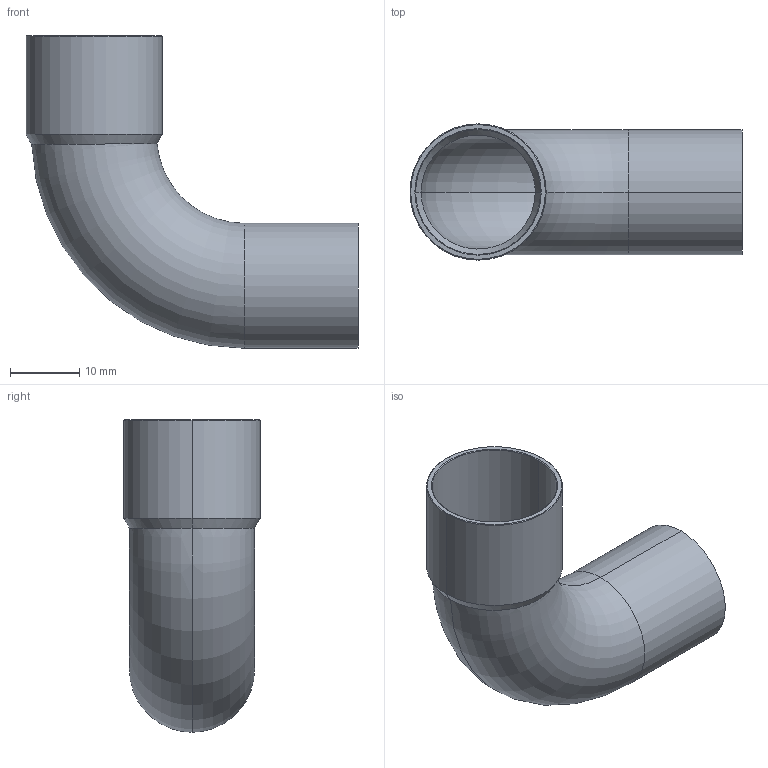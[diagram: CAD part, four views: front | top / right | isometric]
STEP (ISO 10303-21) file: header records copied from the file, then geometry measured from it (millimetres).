
FILE_DESCRIPTION((''),'2;1');
FILE_NAME('P:\Bouwmaten\z-maattekeningen 3D\5000\5001a\15001a18.stp','2005-10-04T14:35:53',('Kris'),(''),'Autodesk Inventor 8','Autodesk Inventor 8','');
FILE_SCHEMA(('AUTOMOTIVE_DESIGN { 1 0 10303 214 1 1 1 1 }'));
Length unit declared in the file: millimetre
Products named in the file (1): 15001a18
Bounding box: 47.8 x 19.6 x 45 mm (x, y, z)
Volume: 2866.7 mm3; surface area: 7251.7 mm2
Topology: 1 solids, 1 shells, 22 faces, 46 edges, 26 vertices
Faces by surface type: cone 8, cylinder 8, torus 4, plane 2
Entity records: 679 total; most frequent: CARTESIAN_POINT 171, DIRECTION 114, ORIENTED_EDGE 92, AXIS2_PLACEMENT_3D 49, EDGE_CURVE 46, VERTEX_POINT 26, CIRCLE 26, EDGE_LOOP 24
